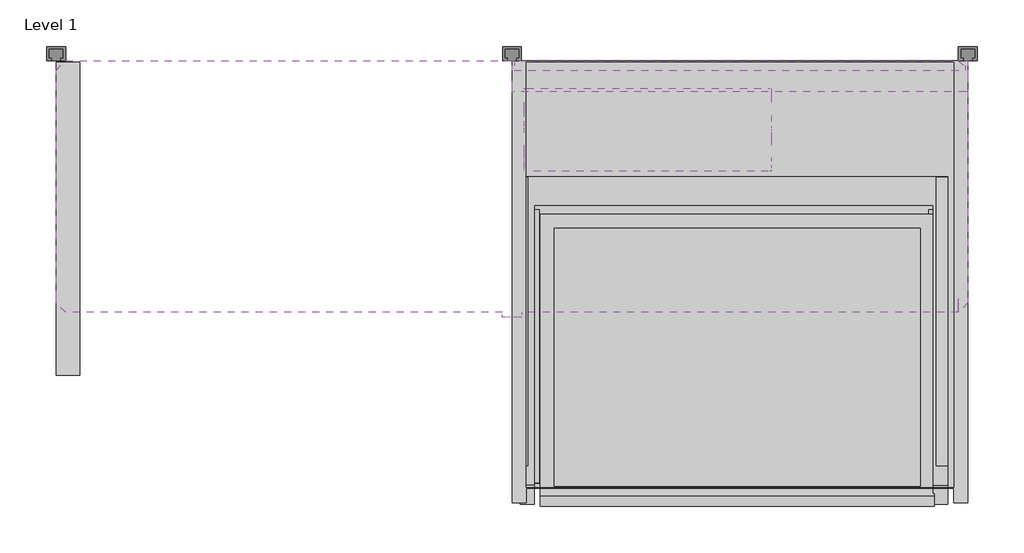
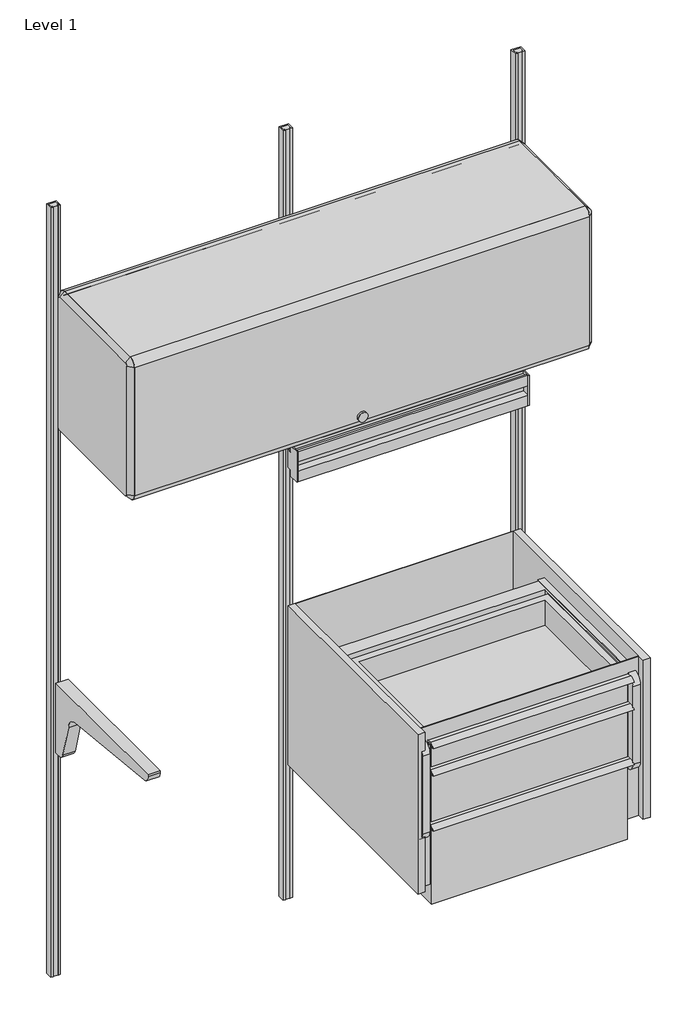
# One storey, incomplete: 11 furniture elements, 1 light fixture.
"""IFC4 building model written with IfcOpenShell, lengths in millimetres."""

from ifc_helpers import new_model, si_unit, origin, place, context, project, spatial, transform, mapped, element, save
from components import furniture_f7d7e143, furniture_79c8ba67, furniture_067cfaca, furniture_96cbcaf7, furniture_1ed09c9c, furniture_ea425779, a_3_c1a7feba, b_6_334becb9, c_9_16105775, light_fixture_c49e82c0

model = new_model("IFC4")

# Units and contexts
model_context = context("Model", 3, world=origin())
ifc_project = project(units=[si_unit("LENGTHUNIT", "METRE", prefix="MILLI")], contexts=[model_context])

# Site, building, storey
site = spatial("IfcSite", under=ifc_project)
building = spatial("IfcBuilding", under=site)
storey = spatial("IfcBuildingStorey", under=building, Name="Level 1", Elevation=0.0)

# Furniture
placement = place(None, origin())
furniture_shape = furniture_f7d7e143(model_context)
element("IfcFurniture", 1, ObjectType="HermanMiller_CoStruc_CO205_CFrame : 10\"H x 17\"D x 22\"W", at=placement, inside=storey, context=model_context, shape_type="MappedRepresentation", body=[
    mapped(furniture_shape, transform((811.3088951, -254.9797197, 0.0), x_axis=(1.0, 0.0, 0.0), y_axis=(0.0, 1.0, 0.0), z_axis=(0.0, 0.0, 1.0))),
])
furniture_2_shape = furniture_79c8ba67(model_context)
element("IfcFurniture", 2, ObjectType="HermanMiller_CoStruc_CO266_GripperPackage : 15\"D x 22-1/2\"W", at=placement, inside=storey, context=model_context, shape_type="MappedRepresentation", body=[
    mapped(furniture_2_shape, transform((903.45768, -174.70882, 0.0), x_axis=(1.0, 0.0, 0.0), y_axis=(0.0, 1.0, 0.0), z_axis=(0.0, 0.0, 1.0))),
])
furniture_3_shape = furniture_067cfaca(model_context)
element("IfcFurniture", 3, ObjectType="HermanMiller_CoStruc_C2513_SinkUnitForStorage : 19\"H x 24\"D x 48\"W", at=placement, inside=storey, context=model_context, shape_type="MappedRepresentation", body=[
    mapped(furniture_3_shape, transform((914.4, -187.325, 0.0), x_axis=(1.0, 0.0, 0.0), y_axis=(0.0, 1.0, 0.0), z_axis=(0.0, 0.0, 1.0))),
])
furniture_4_shape = furniture_96cbcaf7(model_context)
element("IfcFurniture", 4, ObjectType="HermanMiller_ActionOffice_A3352_B-StyleFlipperDoorUnit : 15 1/2\"H x 13\"D x 48\"W", at=placement, inside=storey, context=model_context, shape_type="MappedRepresentation", body=[
    mapped(furniture_4_shape, transform((609.6, -200.025, 0.0), x_axis=(1.0, 0.0, 0.0), y_axis=(0.0, 1.0, 0.0), z_axis=(0.0, 0.0, 1.0))),
])
furniture_5_shape = furniture_1ed09c9c(model_context)
element("IfcFurniture", 5, ObjectType="HermanMiller_CoStruc_C1172_EquipmentRailSystemsMounted : 24\"W", at=placement, inside=storey, context=model_context, shape_type="MappedRepresentation", body=[
    mapped(furniture_5_shape, transform((914.4, -19.05, 0.0), x_axis=(1.0, 0.0, 0.0), y_axis=(0.0, 1.0, 0.0), z_axis=(0.0, 0.0, 1.0))),
])
furniture_6_shape = furniture_ea425779(model_context)
element("IfcFurniture", 6, ObjectType="HermanMiller_ActionOffice_AO213_WallStrip : 84\"H", at=placement, inside=storey, context=model_context, shape_type="MappedRepresentation", body=[
    mapped(furniture_6_shape, transform((609.6, 0.0, 0.0), x_axis=(1.0, 0.0, 0.0), y_axis=(0.0, 1.0, 0.0), z_axis=(0.0, 0.0, 1.0))),
])
element("IfcFurniture", 7, ObjectType="HermanMiller_ActionOffice_AO213_WallStrip : 84\"H", at=placement, inside=storey, context=model_context, shape_type="MappedRepresentation", body=[
    mapped(furniture_6_shape, transform((1219.2, 0.0, 0.0), x_axis=(1.0, 0.0, 0.0), y_axis=(0.0, 1.0, 0.0), z_axis=(0.0, 0.0, 1.0))),
])
element("IfcFurniture", 8, ObjectType="HermanMiller_ActionOffice_AO213_WallStrip : 84\"H", at=placement, inside=storey, context=model_context, shape_type="MappedRepresentation", body=[
    mapped(furniture_6_shape, transform((0.0, 0.0, 0.0), x_axis=(1.0, 0.0, 0.0), y_axis=(0.0, 1.0, 0.0), z_axis=(0.0, 0.0, 1.0))),
])
a_3_shape = a_3_c1a7feba(model_context)
element("IfcFurniture", 9, ObjectType="HermanMiller_CoStruc_CO207_Drawer : A - 3", at=placement, inside=storey, context=model_context, shape_type="MappedRepresentation", body=[
    mapped(a_3_shape, transform((910.7893517, -419.20922, 0.0), x_axis=(1.0, 0.0, 0.0), y_axis=(0.0, 1.0, 0.0), z_axis=(0.0, 0.0, 1.0))),
])
b_6_shape = b_6_334becb9(model_context)
element("IfcFurniture", 10, ObjectType="HermanMiller_CoStruc_CO207_Drawer : B - 6", at=placement, inside=storey, context=model_context, shape_type="MappedRepresentation", body=[
    mapped(b_6_shape, transform((910.7893517, -419.20922, 0.0), x_axis=(1.0, 0.0, 0.0), y_axis=(0.0, 1.0, 0.0), z_axis=(0.0, 0.0, 1.0))),
])
c_9_shape = c_9_16105775(model_context)
element("IfcFurniture", 11, ObjectType="HermanMiller_CoStruc_CO207_Drawer : C - 9", at=placement, inside=storey, context=model_context, shape_type="MappedRepresentation", body=[
    mapped(c_9_shape, transform((910.7893517, -419.20922, 0.0), x_axis=(1.0, 0.0, 0.0), y_axis=(0.0, 1.0, 0.0), z_axis=(0.0, 0.0, 1.0))),
])

# Light fixture
light_fixture_shape = light_fixture_c49e82c0(model_context)
element("IfcLightFixture", 12, ObjectType="HermanMiller_SupplementalProducts_G6136_UtilityTaskLight : AO Etho Canvas 24W", at=placement, inside=storey, context=model_context, shape_type="MappedRepresentation", body=[
    mapped(light_fixture_shape, transform((790.829, -111.125, 0.0), x_axis=(1.0, 0.0, 0.0), y_axis=(0.0, 1.0, 0.0), z_axis=(0.0, 0.0, 1.0))),
])

save(model, "model.ifc")
